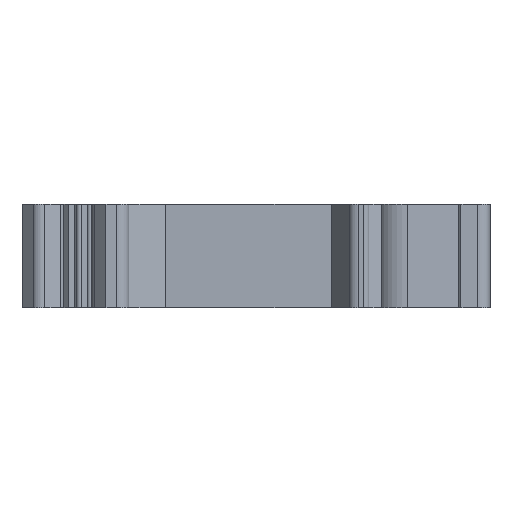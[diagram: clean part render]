
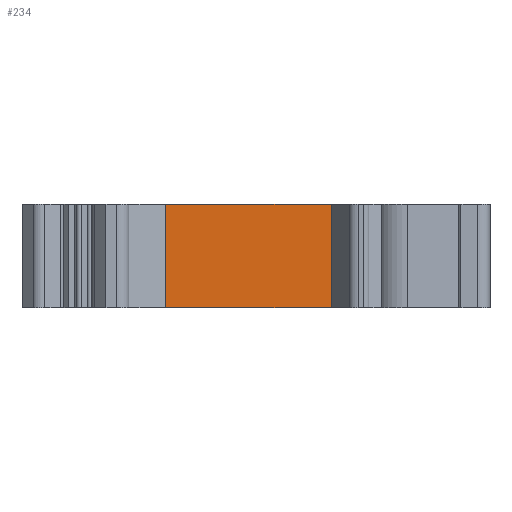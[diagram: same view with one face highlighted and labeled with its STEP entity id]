
A CAD part, left-side view. The second image highlights one B-rep face of the part: STEP entity #234.
In plain terms, the highlighted planar face has unit normal (-1, 0, 0).
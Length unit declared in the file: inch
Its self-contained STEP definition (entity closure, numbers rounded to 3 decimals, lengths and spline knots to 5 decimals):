
#234=ADVANCED_FACE('',(#755),#478,.T.);
#478=PLANE('',#6005);
#755=FACE_OUTER_BOUND('',#1042,.T.);
#1042=EDGE_LOOP('',(#1971,#1972,#1973,#1974));
#1971=ORIENTED_EDGE('',*,*,#3919,.T.);
#1972=ORIENTED_EDGE('',*,*,#3920,.F.);
#1973=ORIENTED_EDGE('',*,*,#3921,.F.);
#1974=ORIENTED_EDGE('',*,*,#3637,.T.);
#3087=VERTEX_POINT('',#7927);
#3088=VERTEX_POINT('',#7929);
#3243=VERTEX_POINT('',#8491);
#3244=VERTEX_POINT('',#8495);
#3637=EDGE_CURVE('',#3088,#3087,#4420,.T.);
#3919=EDGE_CURVE('',#3087,#3243,#4650,.T.);
#3920=EDGE_CURVE('',#3244,#3243,#4651,.T.);
#3921=EDGE_CURVE('',#3088,#3244,#4652,.T.);
#4420=LINE('',#7928,#5143);
#4650=LINE('',#8492,#5373);
#4651=LINE('',#8494,#5374);
#4652=LINE('',#8496,#5375);
#5143=VECTOR('',#6342,1.);
#5373=VECTOR('',#6928,1.);
#5374=VECTOR('',#6931,1.);
#5375=VECTOR('',#6932,1.);
#6005=AXIS2_PLACEMENT_3D('',#8497,#6933,#6934);
#6342=DIRECTION('',(0.,-1.,0.));
#6928=DIRECTION('',(0.,0.,1.));
#6931=DIRECTION('',(0.,-1.,0.));
#6932=DIRECTION('',(0.,0.,1.));
#6933=DIRECTION('',(-1.,0.,0.));
#6934=DIRECTION('',(0.,1.,0.));
#7927=CARTESIAN_POINT('',(-0.53043,0.06137,0.));
#7928=CARTESIAN_POINT('',(-0.53043,0.7031,0.));
#7929=CARTESIAN_POINT('',(-0.53043,0.7031,0.));
#8491=CARTESIAN_POINT('',(-0.53043,0.06137,0.40157));
#8492=CARTESIAN_POINT('',(-0.53043,0.06137,0.));
#8494=CARTESIAN_POINT('',(-0.53043,0.7031,0.40157));
#8495=CARTESIAN_POINT('',(-0.53043,0.7031,0.40157));
#8496=CARTESIAN_POINT('',(-0.53043,0.7031,0.));
#8497=CARTESIAN_POINT('',(-0.53043,0.7031,0.));
